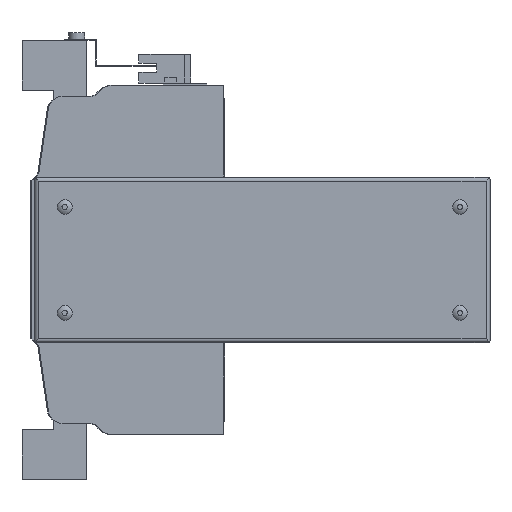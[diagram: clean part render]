
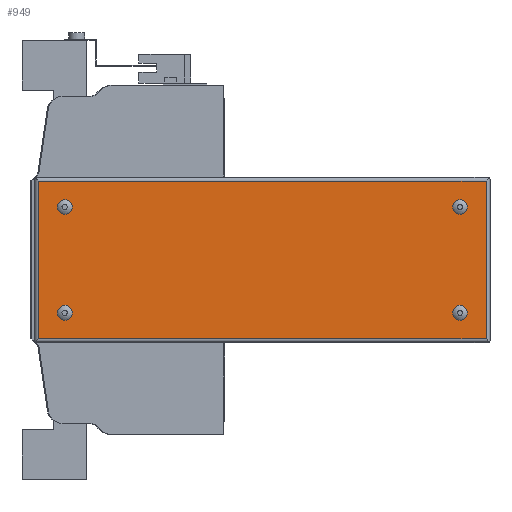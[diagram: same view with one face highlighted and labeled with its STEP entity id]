
A CAD part, left-side view. The second image highlights one B-rep face of the part: STEP entity #949.
In plain terms, the highlighted planar face has unit normal (-1, 0, 0).
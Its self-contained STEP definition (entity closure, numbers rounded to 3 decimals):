
#949 = ADVANCED_FACE( '', ( #2246, #2247, #2248, #2249, #2250 ), #2251, .F. );
#2246 = FACE_BOUND( '', #4073, .T. );
#2247 = FACE_BOUND( '', #4074, .T. );
#2248 = FACE_BOUND( '', #4075, .T. );
#2249 = FACE_BOUND( '', #4076, .T. );
#2250 = FACE_OUTER_BOUND( '', #4077, .T. );
#2251 = PLANE( '', #4078 );
#4073 = EDGE_LOOP( '', ( #6512 ) );
#4074 = EDGE_LOOP( '', ( #6513 ) );
#4075 = EDGE_LOOP( '', ( #6514 ) );
#4076 = EDGE_LOOP( '', ( #6515 ) );
#4077 = EDGE_LOOP( '', ( #6516, #6517, #6518, #6519 ) );
#4078 = AXIS2_PLACEMENT_3D( '', #6520, #6521, #6522 );
#6512 = ORIENTED_EDGE( '', *, *, #10729, .F. );
#6513 = ORIENTED_EDGE( '', *, *, #11069, .F. );
#6514 = ORIENTED_EDGE( '', *, *, #11070, .F. );
#6515 = ORIENTED_EDGE( '', *, *, #11071, .F. );
#6516 = ORIENTED_EDGE( '', *, *, #11072, .F. );
#6517 = ORIENTED_EDGE( '', *, *, #11073, .F. );
#6518 = ORIENTED_EDGE( '', *, *, #11074, .T. );
#6519 = ORIENTED_EDGE( '', *, *, #11075, .T. );
#6520 = CARTESIAN_POINT( '', ( -66., -131.95, 40.5 ) );
#6521 = DIRECTION( '', ( 1., 0., 0. ) );
#6522 = DIRECTION( '', ( 0., 0., -1. ) );
#10729 = EDGE_CURVE( '', #12851, #12851, #12852, .F. );
#11069 = EDGE_CURVE( '', #13429, #13429, #13430, .F. );
#11070 = EDGE_CURVE( '', #13431, #13431, #13432, .F. );
#11071 = EDGE_CURVE( '', #13433, #13433, #13434, .F. );
#11072 = EDGE_CURVE( '', #13435, #13436, #13437, .T. );
#11073 = EDGE_CURVE( '', #13438, #13435, #13439, .T. );
#11074 = EDGE_CURVE( '', #13438, #13440, #13441, .T. );
#11075 = EDGE_CURVE( '', #13440, #13436, #13442, .T. );
#12851 = VERTEX_POINT( '', #15887 );
#12852 = CIRCLE( '', #15888, 3.7 );
#13429 = VERTEX_POINT( '', #16707 );
#13430 = CIRCLE( '', #16708, 3.7 );
#13431 = VERTEX_POINT( '', #16709 );
#13432 = CIRCLE( '', #16710, 3.7 );
#13433 = VERTEX_POINT( '', #16711 );
#13434 = CIRCLE( '', #16712, 3.7 );
#13435 = VERTEX_POINT( '', #16713 );
#13436 = VERTEX_POINT( '', #16714 );
#13437 = LINE( '', #16715, #16716 );
#13438 = VERTEX_POINT( '', #16717 );
#13439 = LINE( '', #16718, #16719 );
#13440 = VERTEX_POINT( '', #16720 );
#13441 = LINE( '', #16721, #16722 );
#13442 = LINE( '', #16723, #16724 );
#15887 = CARTESIAN_POINT( '', ( -66., -117.95, 22.8 ) );
#15888 = AXIS2_PLACEMENT_3D( '', #19529, #19530, #19531 );
#16707 = CARTESIAN_POINT( '', ( -66., -117.95, -30.2 ) );
#16708 = AXIS2_PLACEMENT_3D( '', #19898, #19899, #19900 );
#16709 = CARTESIAN_POINT( '', ( -66., 80.05, 22.8 ) );
#16710 = AXIS2_PLACEMENT_3D( '', #19901, #19902, #19903 );
#16711 = CARTESIAN_POINT( '', ( -66., 80.05, -30.2 ) );
#16712 = AXIS2_PLACEMENT_3D( '', #19904, #19905, #19906 );
#16713 = CARTESIAN_POINT( '', ( -66., 93.05, 39.5 ) );
#16714 = CARTESIAN_POINT( '', ( -66., -130.95, 39.5 ) );
#16715 = CARTESIAN_POINT( '', ( -66., 228., 39.5 ) );
#16716 = VECTOR( '', #19907, 1000. );
#16717 = CARTESIAN_POINT( '', ( -66., 93.05, -39.5 ) );
#16718 = CARTESIAN_POINT( '', ( -66., 93.05, -83. ) );
#16719 = VECTOR( '', #19908, 1000. );
#16720 = CARTESIAN_POINT( '', ( -66., -130.95, -39.5 ) );
#16721 = CARTESIAN_POINT( '', ( -66., 228., -39.5 ) );
#16722 = VECTOR( '', #19909, 1000. );
#16723 = CARTESIAN_POINT( '', ( -66., -130.95, -83. ) );
#16724 = VECTOR( '', #19910, 1000. );
#19529 = CARTESIAN_POINT( '', ( -66., -117.95, 26.5 ) );
#19530 = DIRECTION( '', ( 1., 0., 0. ) );
#19531 = DIRECTION( '', ( 0., 0., -1. ) );
#19898 = CARTESIAN_POINT( '', ( -66., -117.95, -26.5 ) );
#19899 = DIRECTION( '', ( 1., 0., 0. ) );
#19900 = DIRECTION( '', ( 0., 0., -1. ) );
#19901 = CARTESIAN_POINT( '', ( -66., 80.05, 26.5 ) );
#19902 = DIRECTION( '', ( 1., 0., 0. ) );
#19903 = DIRECTION( '', ( 0., 0., -1. ) );
#19904 = CARTESIAN_POINT( '', ( -66., 80.05, -26.5 ) );
#19905 = DIRECTION( '', ( 1., 0., 0. ) );
#19906 = DIRECTION( '', ( 0., 0., -1. ) );
#19907 = DIRECTION( '', ( 0., -1., 0. ) );
#19908 = DIRECTION( '', ( 0., 0., 1. ) );
#19909 = DIRECTION( '', ( 0., -1., 0. ) );
#19910 = DIRECTION( '', ( 0., 0., 1. ) );
